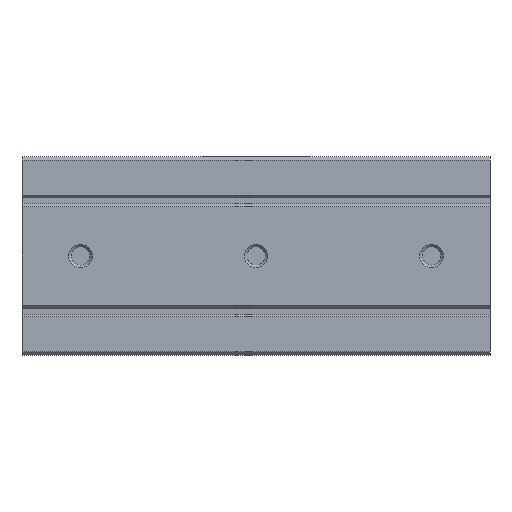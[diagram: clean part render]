
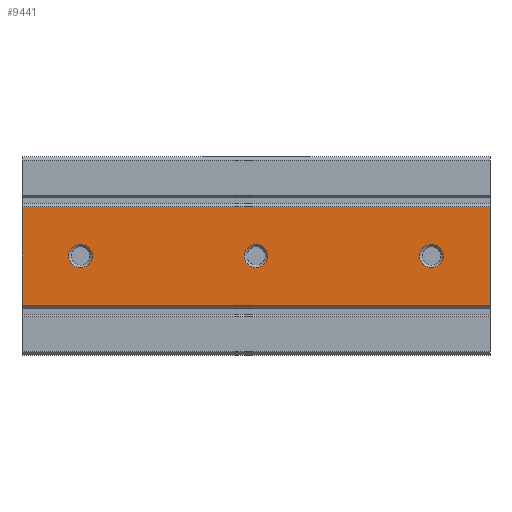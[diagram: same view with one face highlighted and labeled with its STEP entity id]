
A CAD part, front view. The second image highlights one B-rep face of the part: STEP entity #9441.
In plain terms, the highlighted planar face has unit normal (0, -1, 0).
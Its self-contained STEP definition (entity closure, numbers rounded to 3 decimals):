
#50=CIRCLE('',#10002,1.);
#51=CIRCLE('',#10003,1.);
#52=CIRCLE('',#10004,1.);
#1003=ORIENTED_EDGE('',*,*,#3925,.F.);
#1004=ORIENTED_EDGE('',*,*,#3926,.F.);
#1005=ORIENTED_EDGE('',*,*,#3927,.F.);
#1006=ORIENTED_EDGE('',*,*,#3928,.T.);
#1007=ORIENTED_EDGE('',*,*,#3929,.F.);
#1008=ORIENTED_EDGE('',*,*,#3930,.F.);
#1009=ORIENTED_EDGE('',*,*,#3923,.T.);
#3923=EDGE_CURVE('',#5382,#5381,#6369,.T.);
#3925=EDGE_CURVE('',#5383,#5383,#50,.T.);
#3926=EDGE_CURVE('',#5384,#5384,#51,.T.);
#3927=EDGE_CURVE('',#5385,#5385,#52,.T.);
#3928=EDGE_CURVE('',#5381,#5386,#6371,.T.);
#3929=EDGE_CURVE('',#5387,#5386,#6372,.T.);
#3930=EDGE_CURVE('',#5382,#5387,#6373,.T.);
#5381=VERTEX_POINT('',#14358);
#5382=VERTEX_POINT('',#14360);
#5383=VERTEX_POINT('',#14364);
#5384=VERTEX_POINT('',#14366);
#5385=VERTEX_POINT('',#14368);
#5386=VERTEX_POINT('',#14370);
#5387=VERTEX_POINT('',#14372);
#6369=LINE('',#14359,#7205);
#6371=LINE('',#14369,#7207);
#6372=LINE('',#14371,#7208);
#6373=LINE('',#14373,#7209);
#7205=VECTOR('',#11192,1000.);
#7207=VECTOR('',#11202,1000.);
#7208=VECTOR('',#11203,1000.);
#7209=VECTOR('',#11204,1000.);
#8030=EDGE_LOOP('',(#1003));
#8031=EDGE_LOOP('',(#1004));
#8032=EDGE_LOOP('',(#1005));
#8033=EDGE_LOOP('',(#1006,#1007,#1008,#1009));
#8628=FACE_BOUND('',#8030,.T.);
#8629=FACE_BOUND('',#8031,.T.);
#8630=FACE_BOUND('',#8032,.T.);
#8631=FACE_BOUND('',#8033,.T.);
#9225=PLANE('',#10001);
#9441=ADVANCED_FACE('',(#8628,#8629,#8630,#8631),#9225,.F.);
#10001=AXIS2_PLACEMENT_3D('',#14362,#11194,#11195);
#10002=AXIS2_PLACEMENT_3D('',#14363,#11196,#11197);
#10003=AXIS2_PLACEMENT_3D('',#14365,#11198,#11199);
#10004=AXIS2_PLACEMENT_3D('',#14367,#11200,#11201);
#11192=DIRECTION('',(-1.,0.,0.));
#11194=DIRECTION('',(0.,1.,0.));
#11195=DIRECTION('',(0.,0.,1.));
#11196=DIRECTION('',(0.,-1.,0.));
#11197=DIRECTION('',(0.,0.,-1.));
#11198=DIRECTION('',(0.,-1.,0.));
#11199=DIRECTION('',(0.,0.,-1.));
#11200=DIRECTION('',(0.,-1.,0.));
#11201=DIRECTION('',(0.,0.,-1.));
#11202=DIRECTION('',(0.,0.,-1.));
#11203=DIRECTION('',(-1.,0.,0.));
#11204=DIRECTION('',(0.,0.,-1.));
#14358=CARTESIAN_POINT('',(-20.,0.,4.2));
#14359=CARTESIAN_POINT('',(20.,0.,4.2));
#14360=CARTESIAN_POINT('',(20.,0.,4.2));
#14362=CARTESIAN_POINT('',(20.,0.,4.2));
#14363=CARTESIAN_POINT('',(0.,0.,0.));
#14364=CARTESIAN_POINT('',(0.,0.,-1.));
#14365=CARTESIAN_POINT('',(15.,0.,0.));
#14366=CARTESIAN_POINT('',(15.,0.,-1.));
#14367=CARTESIAN_POINT('',(-15.,0.,0.));
#14368=CARTESIAN_POINT('',(-15.,0.,-1.));
#14369=CARTESIAN_POINT('',(-20.,0.,4.2));
#14370=CARTESIAN_POINT('',(-20.,0.,-4.2));
#14371=CARTESIAN_POINT('',(20.,0.,-4.2));
#14372=CARTESIAN_POINT('',(20.,0.,-4.2));
#14373=CARTESIAN_POINT('',(20.,0.,4.2));
